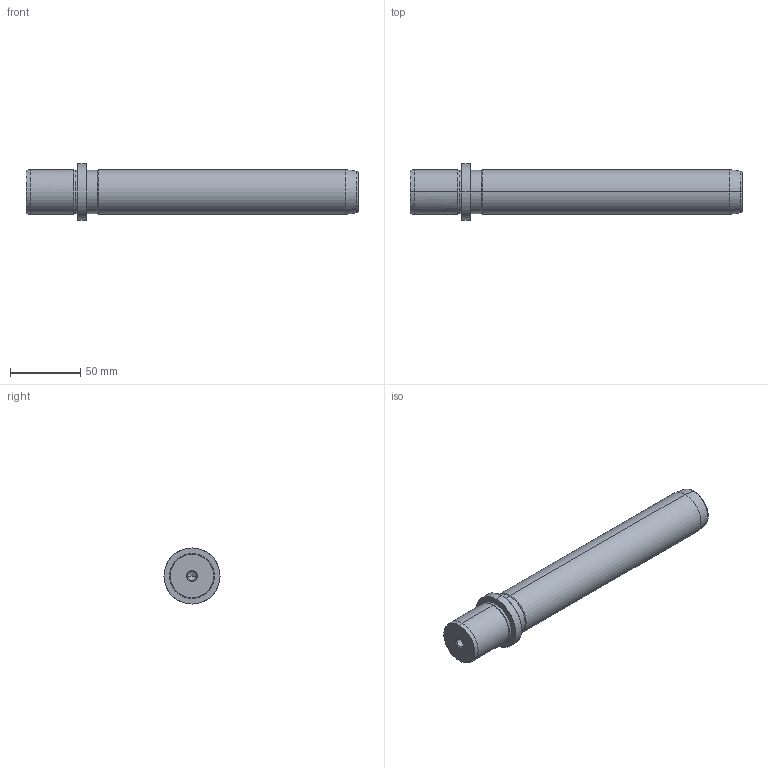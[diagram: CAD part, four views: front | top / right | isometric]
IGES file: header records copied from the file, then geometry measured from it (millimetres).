
Start section: START RECORD GO HERE.
Global section: file name: 719-32x200.igs; native system: DASSAULT SYSTEMES CATIA V5 R20 - www.3ds.com; preprocessor: CATIA Version 5 Release 20 ; author: Utente; organization: NB04-ASUS; date: 20210103.164955; units: millimetre
Bounding box: 237 x 40 x 40 mm (x, y, z)
Surface area: 27365.7 mm2 (no closed solid volume)
Topology: 0 solids, 0 shells, 36 faces, 196 edges, 192 vertices
Faces by surface type: revolution 32, plane 4
